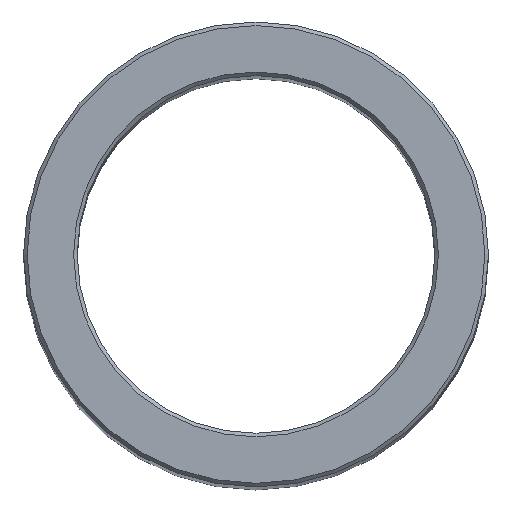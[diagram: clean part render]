
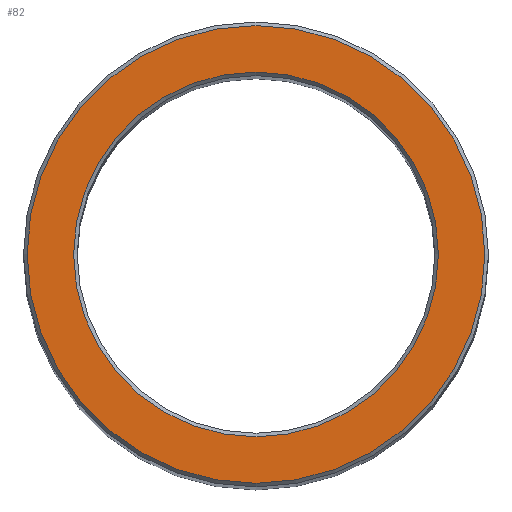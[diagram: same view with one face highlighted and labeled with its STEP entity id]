
A CAD part, top view. The second image highlights one B-rep face of the part: STEP entity #82.
In plain terms, the highlighted planar face has unit normal (0, 0, 1).
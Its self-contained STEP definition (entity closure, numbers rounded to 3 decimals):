
#82=ADVANCED_FACE('',(#105,#106),#107,.T.);
#105=FACE_OUTER_BOUND('',#129,.T.);
#106=FACE_BOUND('',#130,.T.);
#107=PLANE('',#131);
#129=EDGE_LOOP('',(#167));
#130=EDGE_LOOP('',(#168));
#131=AXIS2_PLACEMENT_3D('',#169,#170,#171);
#167=ORIENTED_EDGE('',*,*,#179,.T.);
#168=ORIENTED_EDGE('',*,*,#172,.T.);
#169=CARTESIAN_POINT('',(0.0,0.0,100.0));
#170=DIRECTION('',(0.0,0.0,1.0));
#171=DIRECTION('',(1.0,0.0,0.0));
#172=EDGE_CURVE('',#180,#180,#181,.F.);
#179=EDGE_CURVE('',#194,#194,#195,.T.);
#180=VERTEX_POINT('',#196);
#181=CIRCLE('',#197,10.2);
#194=VERTEX_POINT('',#210);
#195=CIRCLE('',#211,12.8);
#196=CARTESIAN_POINT('',(10.2,0.,100.0));
#197=AXIS2_PLACEMENT_3D('',#212,#213,#214);
#210=CARTESIAN_POINT('',(12.8,0.0,100.0));
#211=AXIS2_PLACEMENT_3D('',#233,#234,#235);
#212=CARTESIAN_POINT('',(0.0,0.0,100.0));
#213=DIRECTION('',(0.0,0.0,1.0));
#214=DIRECTION('',(1.0,0.0,0.0));
#233=CARTESIAN_POINT('',(0.0,0.0,100.0));
#234=DIRECTION('',(0.0,0.0,1.0));
#235=DIRECTION('',(1.0,0.0,0.0));
